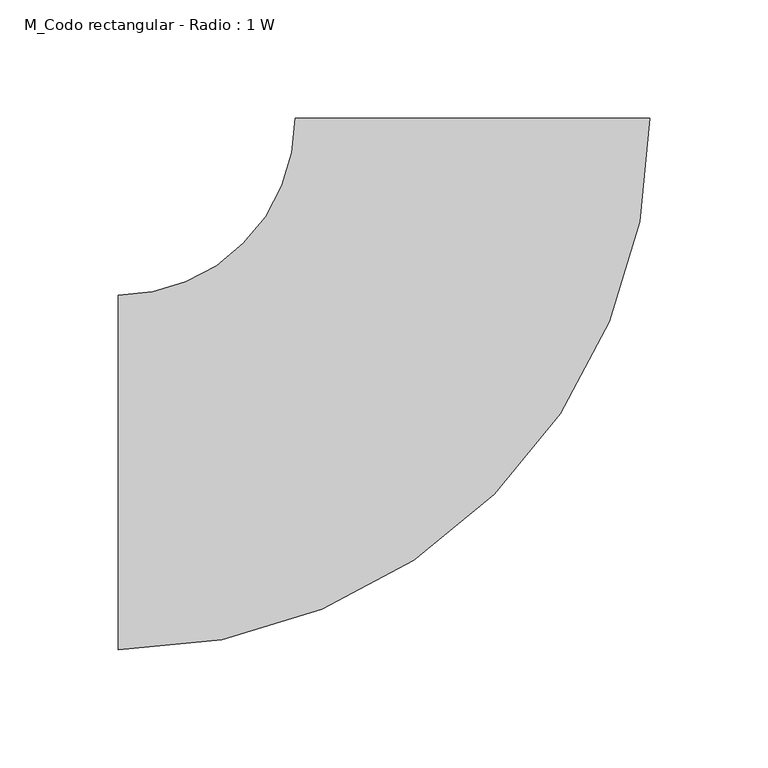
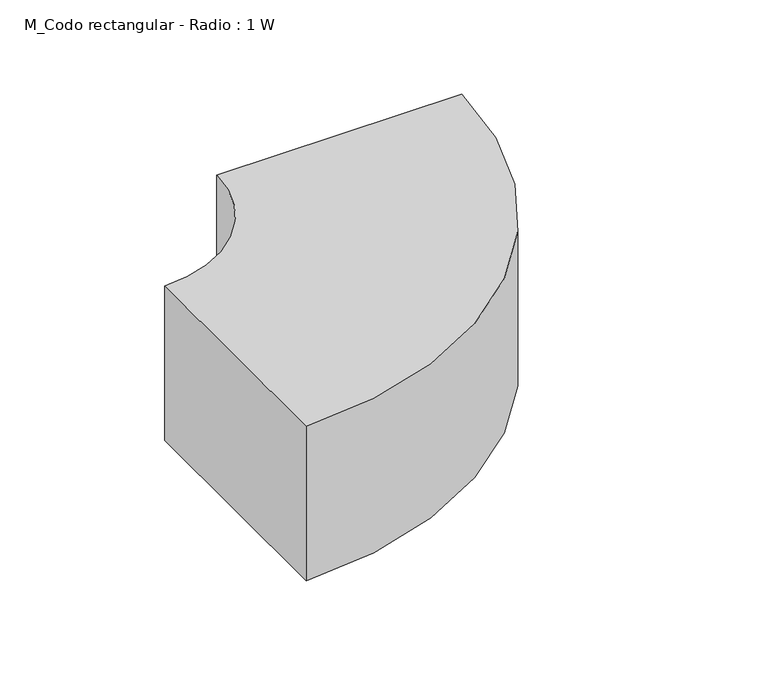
"""IFC4 building model written with IfcOpenShell, lengths in millimetres: duct fitting geometry, M_Codo rectangular - Radio : 1 W."""

from ifc_helpers import new_model, si_unit, point, frame, frame_2d, origin, place, context, project, spatial, polyline, circle_curve, trimmed, segment, composite_curve, outline, extrude, source, transform, mapped, element, save


def m_codo_rectangular_radio_1_w_a732fb49(model_context):
    return source(origin(), model_context, "Body", "SweptSolid", [
        extrude(outline(composite_curve([segment(trimmed(circle_curve(frame_2d((-150.0, 150.0)), 225.0), [point((75.0, 150.0))], [point((-150.0, -75.0))], False, "CARTESIAN"), True, "CONTINUOUS"), segment(polyline([(-150.0, -75.0), (-150.0, 75.0)]), True, "CONTINUOUS"), segment(trimmed(circle_curve(frame_2d((-150.0, 150.0)), 75.0), [point((-150.0, 75.0))], [point((-75.0, 150.0))], True, "CARTESIAN"), True, "CONTINUOUS"), segment(polyline([(-75.0, 150.0), (75.0, 150.0)]), True, "CONTINUOUS")], self_intersect=False)), frame((0.0, 0.0, -50.0), z_axis=(0.0, 0.0, 1.0), x_axis=(1.0, 0.0, 0.0)), (0.0, 0.0, 1.0), 100.0),
    ])


if __name__ == "__main__":
    model = new_model("IFC4")
    model_context = context("Model", 3, world=origin())
    ifc_project = project(units=[si_unit("LENGTHUNIT", "METRE", prefix="MILLI")], contexts=[model_context])
    site = spatial("IfcSite", under=ifc_project)
    building = spatial("IfcBuilding", under=site)
    placement = place(None, origin())
    m_codo_rectangular_radio_1_w_shape = m_codo_rectangular_radio_1_w_a732fb49(model_context)
    element("IfcDuctFitting", 1, ObjectType="M_Codo rectangular - Radio : 1 W", at=placement, inside=building, context=model_context, shape_type="MappedRepresentation", body=[
        mapped(m_codo_rectangular_radio_1_w_shape, transform((0.0, 0.0, 0.0), x_axis=(1.0, 0.0, 0.0), y_axis=(0.0, 1.0, 0.0), z_axis=(0.0, 0.0, 1.0))),
    ])
    save(model, "model.ifc")
